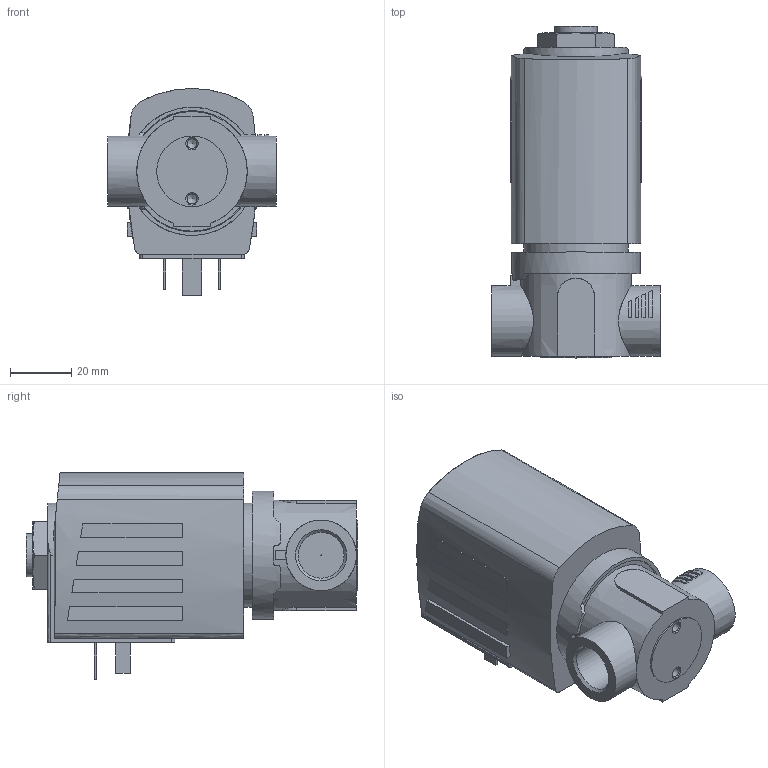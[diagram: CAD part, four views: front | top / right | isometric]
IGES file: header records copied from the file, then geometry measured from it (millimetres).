
Start section: Data from Parasolid IGES Translator 26.0.171, Copyright(c) 2006 Siemens PLM Software. All Rights Reserved.
Global section: file name: 6027-A-8-EPDM___EPDM-VA-G_3_8-42-024___DC.igs; native system: By Siemens PLM Incorporated; preprocessor: XPlus GENERIC/IGES 26.0.171; author: Noname; organization: Noname; date: 20240325.220714; units: millimetre
Bounding box: 55 x 108.2 x 67.5 mm (x, y, z)
Surface area: 28080.8 mm2 (no closed solid volume)
Topology: 0 solids, 0 shells, 172 faces, 842 edges, 823 vertices
Faces by surface type: extrusion 118, revolution 54
